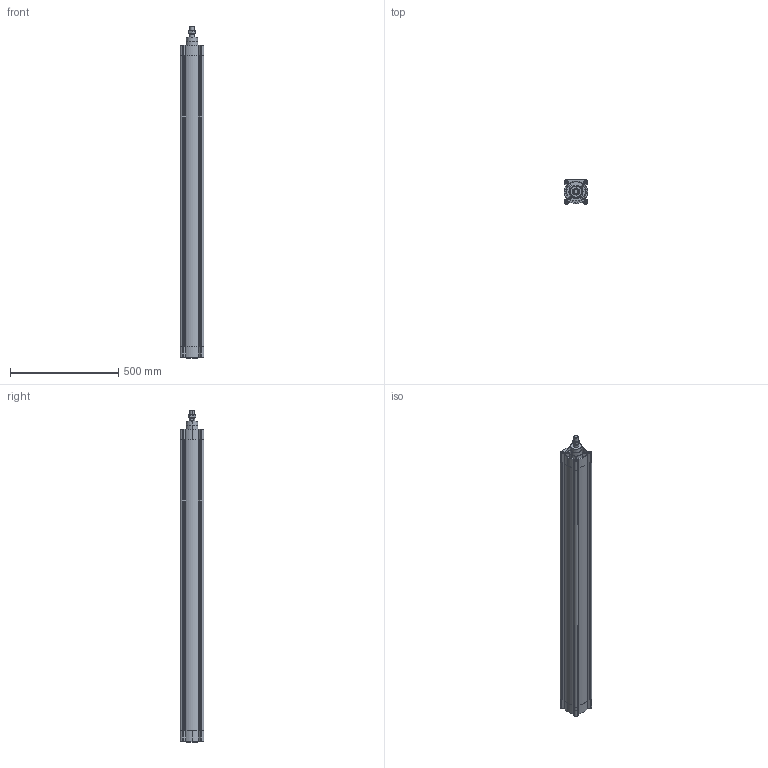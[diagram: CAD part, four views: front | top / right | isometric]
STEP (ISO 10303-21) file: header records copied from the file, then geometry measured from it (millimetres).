
FILE_DESCRIPTION (( 'STEP AP203' ), '1' );
FILE_NAME ('CPME100-1300.STEP', '2025-03-05T17:21:37', ( '' ), ( '' ), 'SwSTEP 2.0', 'SolidWorks 2019', '' );
FILE_SCHEMA (( 'CONFIG_CONTROL_DESIGN' ));
Length unit declared in the file: millimetre
Products named in the file (1): CPME100-1300
Bounding box: 110 x 110 x 1531.5 mm (x, y, z)
Volume: 5541165.5 mm3; surface area: 1379014 mm2
Topology: 3 solids, 3 shells, 537 faces, 1365 edges, 874 vertices
Faces by surface type: cylinder 206, plane 205, cone 98, torus 28
Entity records: 18896 total; most frequent: CARTESIAN_POINT 5784, DIRECTION 2761, ORIENTED_EDGE 2730, EDGE_CURVE 1365, AXIS2_PLACEMENT_3D 1049, VERTEX_POINT 874, VECTOR 663, LINE 663
